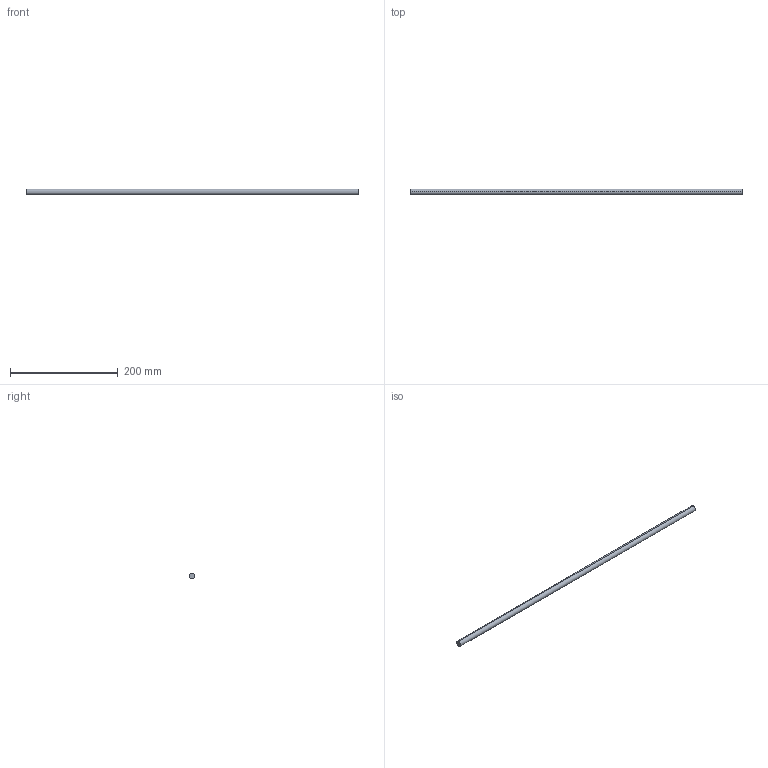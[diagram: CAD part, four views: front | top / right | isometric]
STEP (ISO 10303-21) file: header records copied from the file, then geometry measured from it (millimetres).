
FILE_DESCRIPTION (( 'STEP AP214' ), '1' );
FILE_NAME ('Querreling_Frontblende_Innenlade_KS-16_KAB-700.step', '2010-09-22T15:05:29', ( 'grass' ), ( '' ), 'SwSTEP 2.0', 'SolidWorks 2010', '' );
FILE_SCHEMA (( 'AUTOMOTIVE_DESIGN' ));
Length unit declared in the file: millimetre
Products named in the file (1): Querreling_Frontblende_Innenlade_KS-16_KAB-700
Bounding box: 615 x 11 x 11 mm (x, y, z)
Volume: 58445.4 mm3; surface area: 21442.9 mm2
Topology: 1 solids, 1 shells, 4 faces, 6 edges, 4 vertices
Faces by surface type: cylinder 2, plane 2
Entity records: 128 total; most frequent: DIRECTION 20, CARTESIAN_POINT 15, ORIENTED_EDGE 12, AXIS2_PLACEMENT_3D 9, EDGE_CURVE 6, EDGE_LOOP 4, FACE_OUTER_BOUND 4, CIRCLE 4
